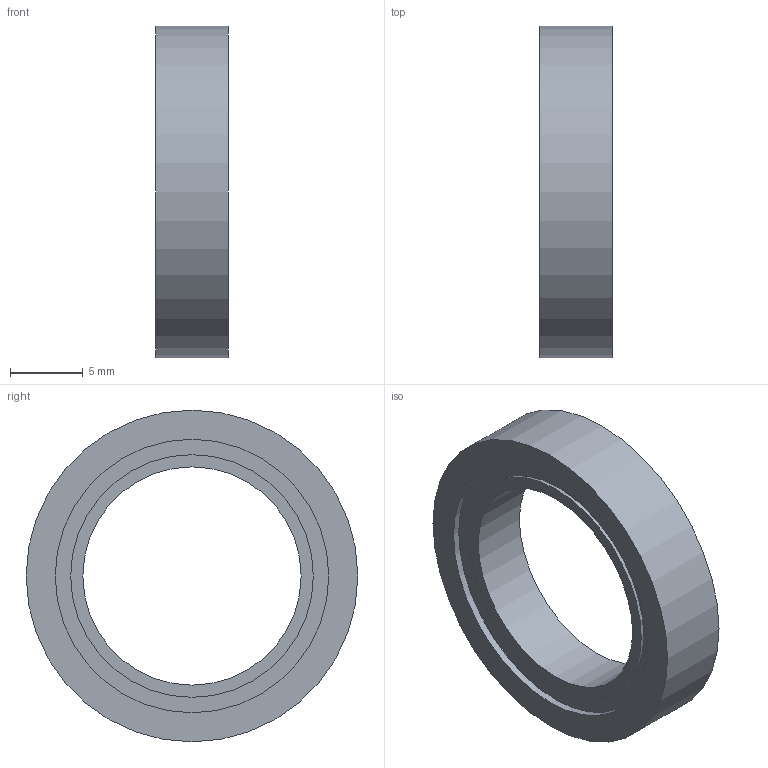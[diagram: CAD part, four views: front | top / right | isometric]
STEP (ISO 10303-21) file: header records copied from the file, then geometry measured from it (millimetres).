
FILE_DESCRIPTION(('Open CASCADE Model'),'2;1');
FILE_NAME('Open CASCADE Shape Model','2026-11-01T16:34:12',('Author'),( 'Open CASCADE'),'Open CASCADE STEP processor 8.0','build123d', 'Unknown');
FILE_SCHEMA(('AUTOMOTIVE_DESIGN { 1 0 10303 214 1 1 1 1 }'));
Length unit declared in the file: millimetre
Products named in the file (1): COMPOUND
Bounding box: 5 x 22.8 x 22.8 mm (x, y, z)
Volume: 985.3 mm3; surface area: 1160 mm2
Topology: 1 solids, 1 shells, 16 faces, 24 edges, 16 vertices
Faces by surface type: plane 8, cylinder 8
Full cylindrical faces by diameter (mm): 15 x1, 16.68 x2, 18.8 x1, 19.32 x2, 21 x1, 22.8 x1
Entity records: 738 total; most frequent: CARTESIAN_POINT 201, DIRECTION 106, ORIENTED_EDGE 48, PCURVE 48, DEFINITIONAL_REPRESENTATION 48, LINE 40, VECTOR 40, AXIS2_PLACEMENT_3D 33
